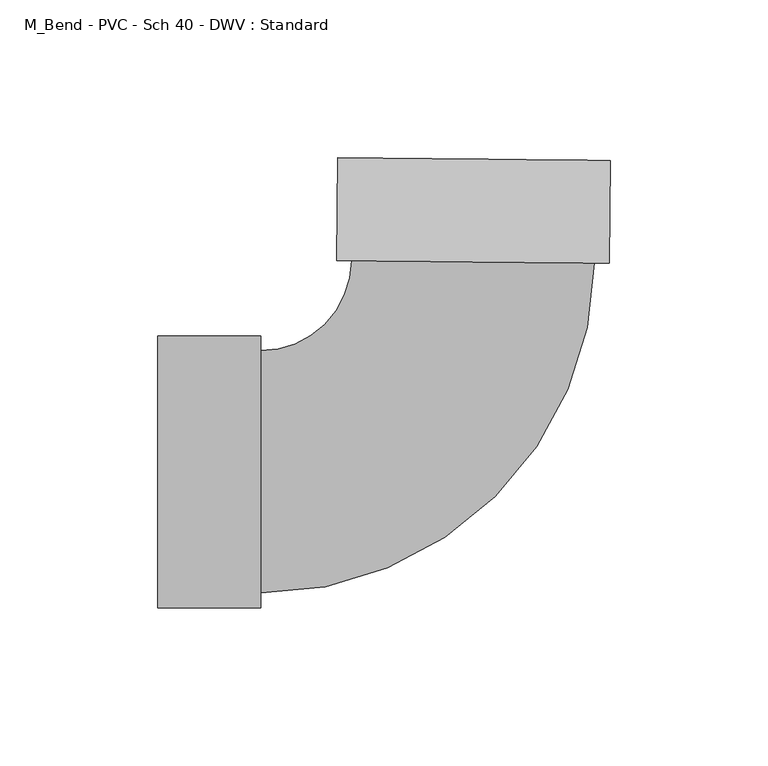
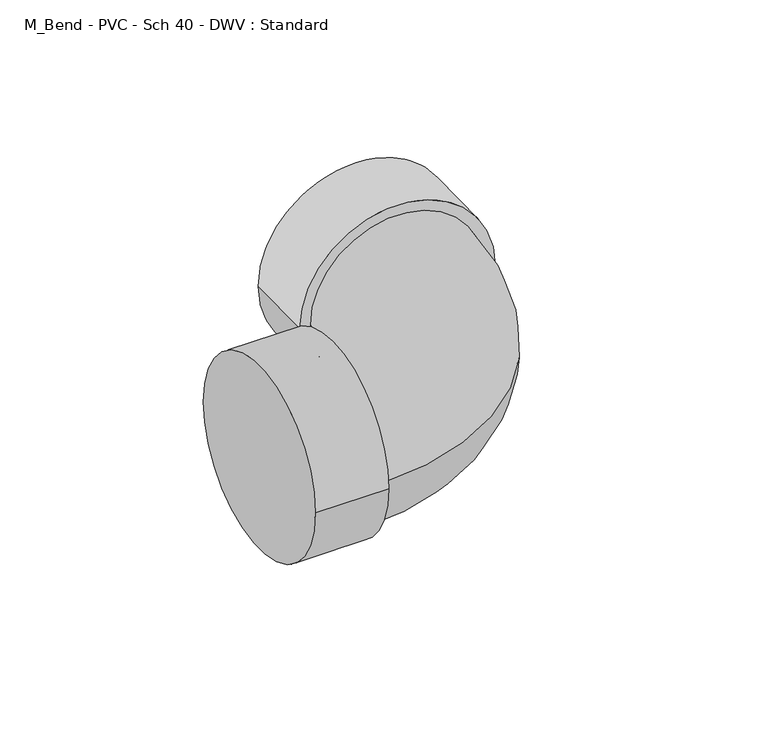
"""IFC4 building model written with IfcOpenShell, lengths in millimetres: pipe fitting geometry, M_Bend - PVC - Sch 40 - DWV : Standard."""

from ifc_helpers import new_model, si_unit, point, frame, origin, place, context, project, spatial, circle_curve, ellipse_curve, trimmed, source, transform, mapped, element, save
from ifc_brep_helpers import plane_surface, cylinder_surface, revolved_surface, advanced_brep


def m_bend_pvc_sch_40_dwv_standard_c8221c0d(model_context):
    return source(origin(), model_context, "Body", "AdvancedBrep", [
        advanced_brep(
        [(-99.0140625, -43.0871094, 0.0), (-99.0140625, 43.0871094, 0.0), (-66.5140625, -43.0871094, 0.0), (-66.5140625, 43.0871094, 0.0), (-66.5140625, -38.3640625, 0.0), (-66.5140625, 38.3640625, 0.0), (-37.6937097, 66.8962335, 0.0), (39.030541, 66.1251743, 0.0), (43.7533493, 66.0777113, 0.0), (-42.416518, 66.9436965, 0.0), (44.0799496, 98.5760702, 0.0), (-42.0899178, 99.4420554, 0.0)],
        [
            (0, 1, circle_curve(frame((-99.0140625, 0.0, 0.0), z_axis=(-1.0, 0.0, 0.0), x_axis=(0.0, 1.0, 0.0)), 43.0871094)),
            (1, 0, circle_curve(frame((-99.0140625, 0.0, 0.0), z_axis=(-1.0, 0.0, 0.0), x_axis=(0.0, 1.0, 0.0)), 43.0871094)),
            (2, 3, circle_curve(frame((-66.5140625, 0.0, 0.0), z_axis=(1.0, 0.0, 0.0), x_axis=(0.0, 1.0, 0.0)), 43.0871094)),
            (3, 2, circle_curve(frame((-66.5140625, 0.0, 0.0), z_axis=(1.0, 0.0, 0.0), x_axis=(0.0, 1.0, 0.0)), 43.0871094)),
            (4, 5, circle_curve(frame((-66.5140625, 0.0, 0.0), z_axis=(-1.0, 0.0, 0.0), x_axis=(0.0, 1.0, 0.0)), 38.3640625)),
            (5, 4, circle_curve(frame((-66.5140625, 0.0, 0.0), z_axis=(-1.0, 0.0, 0.0), x_axis=(0.0, 1.0, 0.0)), 38.3640625)),
            (0, 2),
            (3, 1),
            (6, 5, circle_curve(frame((-66.5140625, 67.1858707, 0.0), z_axis=(0.0, 0.0, -1.0), x_axis=(0.0, -1.0, 0.0)), 28.8218082)),
            (4, 7, circle_curve(frame((-66.5140625, 67.1858707, 0.0), z_axis=(0.0, 0.0, 1.0), x_axis=(0.0, -1.0, 0.0)), 105.5499332)),
            (7, 6, circle_curve(frame((0.6684157, 66.5107039, 0.0), z_axis=(-0.010049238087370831, -0.9999495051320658, 0.0), x_axis=(-0.9999495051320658, 0.010049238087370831, 0.0)), 38.3640625)),
            (6, 7, circle_curve(frame((0.6684157, 66.5107039, 0.0), z_axis=(-0.010049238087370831, -0.9999495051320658, 0.0), x_axis=(-0.9999495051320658, 0.010049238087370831, 0.0)), 38.3640625)),
            (8, 9, circle_curve(frame((0.6684157, 66.5107039, 0.0), z_axis=(-0.010049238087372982, -0.9999495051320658, 0.0), x_axis=(-0.9999495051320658, 0.010049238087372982, 0.0)), 43.0871094)),
            (9, 8, circle_curve(frame((0.6684157, 66.5107039, 0.0), z_axis=(-0.010049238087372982, -0.9999495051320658, 0.0), x_axis=(-0.9999495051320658, 0.010049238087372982, 0.0)), 43.0871094)),
            (10, 11, circle_curve(frame((0.9950159, 99.0090628, 0.0), z_axis=(0.010049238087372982, 0.9999495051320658, 0.0), x_axis=(-0.9999495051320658, 0.010049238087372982, 0.0)), 43.0871094)),
            (11, 10, circle_curve(frame((0.9950159, 99.0090628, 0.0), z_axis=(0.010049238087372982, 0.9999495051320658, 0.0), x_axis=(-0.9999495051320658, 0.010049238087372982, 0.0)), 43.0871094)),
            (8, 10),
            (11, 9),
        ],
        [
            plane_surface(frame((-99.0140625, 0.0, 0.0), z_axis=(-1.0, 0.0, 0.0), x_axis=(0.0, 0.0, 1.0))),
            plane_surface(frame((-66.5140625, 0.0, 0.0), z_axis=(1.0, 0.0, 0.0), x_axis=(0.0, 0.0, 1.0))),
            cylinder_surface(frame((-99.0140625, 0.0, 0.0), z_axis=(-1.0, 0.0, 0.0), x_axis=(0.0, 1.0, 0.0)), 43.0871094),
            revolved_surface(trimmed(ellipse_curve(frame((-66.5140625, 0.0, 0.0), z_axis=(-1.0, 0.0, 0.0), x_axis=(0.0, 1.0, 0.0)), 38.3640625, 38.3640625), [point((-66.5140625, -38.3640625, 0.0))], [point((-66.5140625, 38.3640625, 0.0))], True, "CARTESIAN"), (-66.5140625, 67.1858707, 0.0), (0.0, 0.0, 1.0)),
            revolved_surface(trimmed(ellipse_curve(frame((-66.5140625, 0.0, 0.0), z_axis=(-1.0, 0.0, 0.0), x_axis=(0.0, 1.0, 0.0)), 38.3640625, 38.3640625), [point((-66.5140625, 38.3640625, 0.0))], [point((-66.5140625, -38.3640625, 0.0))], True, "CARTESIAN"), (-66.5140625, 67.1858707, 0.0), (0.0, 0.0, 1.0)),
            plane_surface(frame((0.6684157, 66.5107039, 0.0), z_axis=(-0.010049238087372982, -0.9999495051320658, 0.0), x_axis=(0.0, 0.0, 1.0))),
            plane_surface(frame((0.9950159, 99.0090628, 0.0), z_axis=(0.010049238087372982, 0.9999495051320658, 0.0), x_axis=(0.0, 0.0, 1.0))),
            cylinder_surface(frame((0.6684157, 66.5107039, 0.0), z_axis=(-0.010049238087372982, -0.9999495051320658, 0.0), x_axis=(-0.9999495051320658, 0.010049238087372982, 0.0)), 43.0871094),
        ],
        [
            (0, [[1, 2]]),
            (1, [[3, 4], [5, 6]]),
            (2, [[-1, 7, -4, 8]]),
            (2, [[-2, -8, -3, -7]]),
            (3, [[9, -5, 10, 11]]),
            (4, [[-9, 12, -10, -6]]),
            (5, [[13, 14], [-11, -12]]),
            (6, [[15, 16]]),
            (7, [[-13, 17, -16, 18]]),
            (7, [[-14, -18, -15, -17]]),
        ],
    ),
    ])


if __name__ == "__main__":
    model = new_model("IFC4")
    model_context = context("Model", 3, world=origin())
    ifc_project = project(units=[si_unit("LENGTHUNIT", "METRE", prefix="MILLI")], contexts=[model_context])
    site = spatial("IfcSite", under=ifc_project)
    building = spatial("IfcBuilding", under=site)
    placement = place(None, origin())
    m_bend_pvc_sch_40_dwv_standard_shape = m_bend_pvc_sch_40_dwv_standard_c8221c0d(model_context)
    element("IfcPipeFitting", 1, ObjectType="M_Bend - PVC - Sch 40 - DWV : Standard", at=placement, inside=building, context=model_context, shape_type="MappedRepresentation", body=[
        mapped(m_bend_pvc_sch_40_dwv_standard_shape, transform((0.0, 0.0, 0.0), x_axis=(1.0, 0.0, 0.0), y_axis=(0.0, 1.0, 0.0), z_axis=(0.0, 0.0, 1.0))),
    ])
    save(model, "model.ifc")
